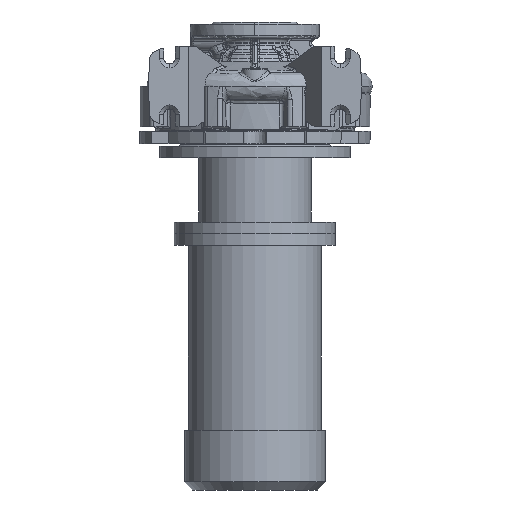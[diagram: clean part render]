
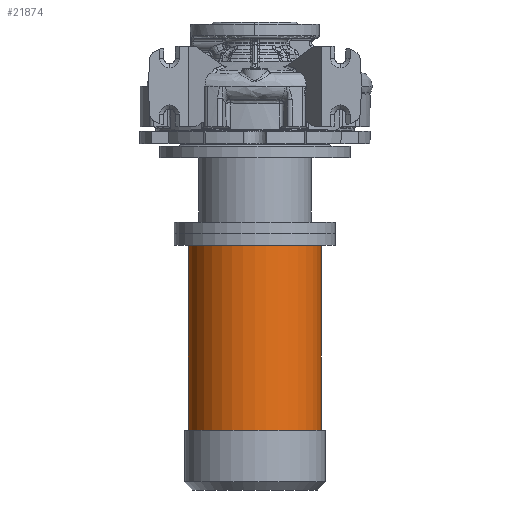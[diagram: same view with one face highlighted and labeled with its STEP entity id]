
A CAD part, front view. The second image highlights one B-rep face of the part: STEP entity #21874.
In plain terms, the highlighted cylindrical face has radius 82.5 mm (diameter 165 mm), a partial arc.
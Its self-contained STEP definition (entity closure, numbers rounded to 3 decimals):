
#923 = CARTESIAN_POINT ( 'NONE',  ( -82.5, 0., -197.3 ) ) ;
#1150 = LINE ( 'NONE', #21021, #13379 ) ;
#2284 = CARTESIAN_POINT ( 'NONE',  ( 82.5, 0., -197.3 ) ) ;
#3401 = ORIENTED_EDGE ( 'NONE', *, *, #55706, .T. ) ;
#6709 = CYLINDRICAL_SURFACE ( 'NONE', #40879, 82.5 ) ;
#7241 = DIRECTION ( 'NONE',  ( 0., 0., -1. ) ) ;
#7500 = CARTESIAN_POINT ( 'NONE',  ( -82.5, 0., -426.8 ) ) ;
#10803 = ORIENTED_EDGE ( 'NONE', *, *, #30066, .F. ) ;
#13103 = VERTEX_POINT ( 'NONE', #7500 ) ;
#13379 = VECTOR ( 'NONE', #48364, 1000. ) ;
#13766 = EDGE_CURVE ( 'NONE', #51730, #26725, #39698, .T. ) ;
#14384 = EDGE_CURVE ( 'NONE', #51730, #31098, #1150, .T. ) ;
#21021 = CARTESIAN_POINT ( 'NONE',  ( 82.5, 0., -500.8 ) ) ;
#21491 = DIRECTION ( 'NONE',  ( 0., 0., -1. ) ) ;
#21874 = ADVANCED_FACE ( 'NONE', ( #27834 ), #6709, .T. ) ;
#24354 = CARTESIAN_POINT ( 'NONE',  ( 0., 0., -197.3 ) ) ;
#26725 = VERTEX_POINT ( 'NONE', #923 ) ;
#27452 = CARTESIAN_POINT ( 'NONE',  ( 0., 0., -500.8 ) ) ;
#27803 = CIRCLE ( 'NONE', #44012, 82.5 ) ;
#27834 = FACE_OUTER_BOUND ( 'NONE', #45791, .T. ) ;
#30066 = EDGE_CURVE ( 'NONE', #31098, #13103, #27803, .T. ) ;
#31098 = VERTEX_POINT ( 'NONE', #51441 ) ;
#32738 = DIRECTION ( 'NONE',  ( -1., 0., 0. ) ) ;
#35098 = DIRECTION ( 'NONE',  ( 0., 0., -1. ) ) ;
#39698 = CIRCLE ( 'NONE', #44545, 82.5 ) ;
#40162 = VECTOR ( 'NONE', #61658, 1000. ) ;
#40879 = AXIS2_PLACEMENT_3D ( 'NONE', #27452, #7241, #32738 ) ;
#42625 = LINE ( 'NONE', #56411, #40162 ) ;
#44012 = AXIS2_PLACEMENT_3D ( 'NONE', #63424, #21491, #53134 ) ;
#44545 = AXIS2_PLACEMENT_3D ( 'NONE', #24354, #35098, #60843 ) ;
#45791 = EDGE_LOOP ( 'NONE', ( #65611, #61706, #3401, #10803 ) ) ;
#48364 = DIRECTION ( 'NONE',  ( 0., 0., -1. ) ) ;
#51441 = CARTESIAN_POINT ( 'NONE',  ( 82.5, 0., -426.8 ) ) ;
#51730 = VERTEX_POINT ( 'NONE', #2284 ) ;
#53134 = DIRECTION ( 'NONE',  ( -1., 0., 0. ) ) ;
#55706 = EDGE_CURVE ( 'NONE', #26725, #13103, #42625, .T. ) ;
#56411 = CARTESIAN_POINT ( 'NONE',  ( -82.5, 0., -500.8 ) ) ;
#60843 = DIRECTION ( 'NONE',  ( -1., 0., 0. ) ) ;
#61658 = DIRECTION ( 'NONE',  ( 0., 0., -1. ) ) ;
#61706 = ORIENTED_EDGE ( 'NONE', *, *, #13766, .T. ) ;
#63424 = CARTESIAN_POINT ( 'NONE',  ( 0., 0., -426.8 ) ) ;
#65611 = ORIENTED_EDGE ( 'NONE', *, *, #14384, .F. ) ;
